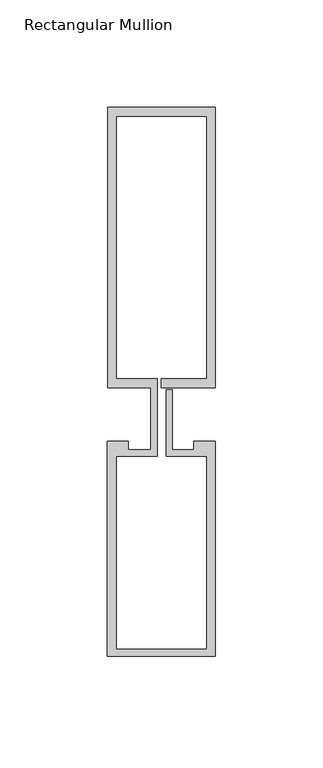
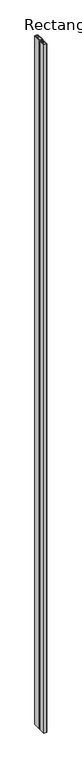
"""IFC4 building model written with IfcOpenShell, lengths in millimetres: member geometry, Rectangular Mullion : Reynaers_CW-50_Mullion-Transom_Horizontal_130.4mm_Facecap-02D."""

import ifcopenshell
import ifcopenshell.guid

model = None  # the IFC model being written
_history = None  # IfcOwnerHistory: only IFC2X3 demands one
_inside = {}  # id of a spatial element -> (the spatial element, [elements in it])
_under = {}  # id of a project, library or spatial element -> (it, [spatial elements below it])
_declared = {}  # id of a project -> (the project, [libraries it declares])
_typed = {}  # id of a type object -> (the type object, [elements of that type])
_made_of = {}  # id of a material, layer set ... -> (it, [elements and type objects made of it])


def new_model(schema):
    """Start an empty IFC model of exactly this schema.

    Asked for "IFC4X3", IfcOpenShell would pick the latest addendum, in which some entities
    have other attributes; the version numbers below select the first issue.
    IFC2X3 requires an IfcOwnerHistory on every rooted entity: one is made here for all.
    """
    global model, _history
    if schema == "IFC4X3":
        model = ifcopenshell.file(schema_version=(4, 3, 0, 0))
    else:
        model = ifcopenshell.file(schema=schema)
    _inside.clear()
    _under.clear()
    _declared.clear()
    _typed.clear()
    _made_of.clear()
    _history = None
    if model.schema == "IFC2X3":
        org = make("IfcOrganization", Name="unknown")
        user = make(
            "IfcPersonAndOrganization",
            ThePerson=make("IfcPerson", FamilyName="unknown"),
            TheOrganization=org,
        )
        app = make(
            "IfcApplication",
            ApplicationDeveloper=org,
            Version="unknown",
            ApplicationFullName="unknown",
            ApplicationIdentifier="unknown",
        )
        _history = make(
            "IfcOwnerHistory",
            OwningUser=user,
            OwningApplication=app,
            ChangeAction="ADDED",
            CreationDate=0,
        )
    return model


def make(cls, **values):
    """One entity of the class cls with the attributes given. An attribute that is None is left unset."""
    return model.create_entity(
        cls, **{name: value for name, value in values.items() if value is not None}
    )


def rooted(cls, **values):
    """An entity with a GlobalId (a new one), such as an element, a storey or a relation."""
    return make(cls, GlobalId=ifcopenshell.guid.new(), OwnerHistory=_history, **values)


def si_unit(unit_type, name, prefix=None):
    """IfcSIUnit, for example si_unit("LENGTHUNIT", "METRE", prefix="MILLI")."""
    return make("IfcSIUnit", UnitType=unit_type, Prefix=prefix, Name=name)


def assignment(units):
    """IfcUnitAssignment: the units of a project."""
    return None if units is None else make("IfcUnitAssignment", Units=units)


def point(xyz):
    """IfcCartesianPoint."""
    return None if xyz is None else make("IfcCartesianPoint", Coordinates=xyz)


def direction(xyz):
    """IfcDirection."""
    return None if xyz is None else make("IfcDirection", DirectionRatios=xyz)


def frame(location, z_axis=None, x_axis=None):
    """IfcAxis2Placement3D, a coordinate frame: its origin and axes. An axis left out is left unset."""
    return make(
        "IfcAxis2Placement3D",
        Location=point(location),
        Axis=direction(z_axis),
        RefDirection=direction(x_axis),
    )


def origin():
    """The frame at (0, 0, 0) with its axes left unset."""
    return frame((0.0, 0.0, 0.0))


def place(relative_to, where):
    """IfcLocalPlacement: puts the frame where relative to a parent placement (None: the world)."""
    return make(
        "IfcLocalPlacement", PlacementRelTo=relative_to, RelativePlacement=where
    )


def context(
    kind, dimensions, precision=None, world=None, true_north=None, identifier=None
):
    """IfcGeometricRepresentationContext, for example the 3D "Model" context."""
    return make(
        "IfcGeometricRepresentationContext",
        ContextIdentifier=identifier,
        ContextType=kind,
        CoordinateSpaceDimension=dimensions,
        Precision=precision,
        WorldCoordinateSystem=world,
        TrueNorth=true_north,
    )


def project(units=None, contexts=None):
    """IfcProject with its units and contexts."""
    return rooted(
        "IfcProject",
        Name="project",
        RepresentationContexts=contexts,
        UnitsInContext=assignment(units),
    )


def spatial(cls, under=None, at=None, **own):
    """A site, building, storey or space (cls), placed at a placement, below another one or the project."""
    s = rooted(cls, ObjectPlacement=at, **own)
    if under is not None:
        _under.setdefault(under.id(), (under, []))[1].append(s)
    return s


def polyline(points):
    """IfcPolyline through the points."""
    return make("IfcPolyline", Points=[point(p) for p in points])


def outline(outer, holes=None, kind="AREA"):
    """IfcArbitraryClosedProfileDef: a profile drawn as a closed curve; with holes, ...WithVoids."""
    if holes is None:
        return make("IfcArbitraryClosedProfileDef", ProfileType=kind, OuterCurve=outer)
    return make(
        "IfcArbitraryProfileDefWithVoids",
        ProfileType=kind,
        OuterCurve=outer,
        InnerCurves=holes,
    )


def extrude(swept, where, along, depth):
    """IfcExtrudedAreaSolid: the profile swept, set in the frame where, extruded along a direction by depth."""
    return make(
        "IfcExtrudedAreaSolid",
        SweptArea=swept,
        Position=where,
        ExtrudedDirection=direction(along),
        Depth=depth,
    )


def shape(context_of_items, identifier, shape_type, items):
    """IfcShapeRepresentation: the items that make up one representation, for example the "Body"."""
    return make(
        "IfcShapeRepresentation",
        ContextOfItems=context_of_items,
        RepresentationIdentifier=identifier,
        RepresentationType=shape_type,
        Items=items,
    )


def source(mapping_origin, context_of_items, identifier, shape_type, items):
    """IfcRepresentationMap: a shape defined once, which mapped items show again and again."""
    return make(
        "IfcRepresentationMap",
        MappingOrigin=mapping_origin,
        MappedRepresentation=shape(context_of_items, identifier, shape_type, items),
    )


def transform(
    local_origin,
    x_axis=None,
    y_axis=None,
    z_axis=None,
    scale=None,
    scale2=None,
    scale3=None,
    uniform=True,
):
    """IfcCartesianTransformationOperator3D, or its non-uniform kind. x_axis, y_axis, z_axis: its Axis1, 2, 3."""
    if uniform:
        return make(
            "IfcCartesianTransformationOperator3D",
            Axis1=direction(x_axis),
            Axis2=direction(y_axis),
            LocalOrigin=point(local_origin),
            Scale=scale,
            Axis3=direction(z_axis),
        )
    return make(
        "IfcCartesianTransformationOperator3DnonUniform",
        Axis1=direction(x_axis),
        Axis2=direction(y_axis),
        LocalOrigin=point(local_origin),
        Scale=scale,
        Axis3=direction(z_axis),
        Scale2=scale2,
        Scale3=scale3,
    )


def mapped(mapping_source, mapping_target):
    """IfcMappedItem: shows the shape of a source again, moved by a transform."""
    return make(
        "IfcMappedItem", MappingSource=mapping_source, MappingTarget=mapping_target
    )


def made_of(thing, what):
    """Note that an element or type object is made of a material, layer set ...; save() writes the relation."""
    if what is not None:
        _made_of.setdefault(what.id(), (what, []))[1].append(thing)
    return thing


def element(
    cls,
    number,
    at=None,
    inside=None,
    cuts=None,
    type_object=None,
    material=None,
    context=None,
    identifier="Body",
    shape_type=None,
    held_by="IfcProductDefinitionShape",
    body=None,
    shapes=None,
    **own,
):
    """One element of the class cls, such as IfcWall. Its Tag is "e" and its number.

    at: its placement. inside: the storey or other place that contains it. cuts: it is an
    opening in that element (IfcRelVoidsElement). A single representation is given by context,
    identifier, shape_type and body (its items); several are given by shapes. held_by: the class
    of the entity that holds the representations. save() writes the other relations.
    """
    e = rooted(cls, Tag="e%d" % number, ObjectPlacement=at, **own)
    if body is not None:
        shapes = [shape(context, identifier, shape_type, body)]
    if shapes is not None:
        e.Representation = make(held_by, Representations=shapes)
    if inside is not None:
        _inside.setdefault(inside.id(), (inside, []))[1].append(e)
    if cuts is not None:
        rooted(
            "IfcRelVoidsElement", RelatingBuildingElement=cuts, RelatedOpeningElement=e
        )
    if type_object is not None:
        _typed.setdefault(type_object.id(), (type_object, []))[1].append(e)
    return made_of(e, material)


def aggregate(whole, parts):
    """IfcRelAggregates: a whole, such as a stair, and the parts it consists of."""
    return rooted("IfcRelAggregates", RelatingObject=whole, RelatedObjects=parts)


def save(model, path):
    """Write the relations noted so far, then the file.

    IfcRelAggregates (storeys below a building ...), IfcRelContainedInSpatialStructure (elements
    in a storey), IfcRelDefinesByType, IfcRelAssociatesMaterial and IfcRelDeclares: one each for
    every whole, place, type object, material and project.
    """
    for whole, parts in _under.values():
        aggregate(whole, parts)
    for where, things in _inside.values():
        rooted(
            "IfcRelContainedInSpatialStructure",
            RelatedElements=things,
            RelatingStructure=where,
        )
    for kind, things in _typed.values():
        rooted("IfcRelDefinesByType", RelatedObjects=things, RelatingType=kind)
    for what, things in _made_of.values():
        rooted("IfcRelAssociatesMaterial", RelatedObjects=things, RelatingMaterial=what)
    for by, libraries in _declared.values():
        rooted("IfcRelDeclares", RelatingContext=by, RelatedDefinitions=libraries)
    model.write(path)


def rectangular_mullion_0ccb0c52(model_context):
    return source(origin(), model_context, "Body", "SweptSolid", [
        extrude(outline(polyline([(-24.8004059, 142.9), (25.1995941, 142.9), (25.1995941, 12.5), (0.0, 12.5), (0.0, 16.5), (21.1995941, 16.5), (21.1995941, 138.9), (-20.8004059, 138.9), (-20.8004059, 16.5), (-1.9004059, 16.5), (-1.9004059, -19.5), (-20.994845, -19.5), (-20.994845, -109.4191338), (21.1995941, -109.4191338), (21.1995941, -19.5), (2.2995941, -19.5), (2.2995941, 11.5), (5.2995941, 11.5), (5.2995941, -16.5), (15.2996495, -16.5), (15.2996495, -12.5), (25.1995941, -12.5), (25.1995941, -112.5), (-24.994845, -112.5), (-24.994845, -12.5), (-15.2996495, -12.5), (-15.2996495, -16.5), (-4.9004059, -16.5), (-4.9004059, 12.5), (-24.8004059, 12.5), (-24.8004059, 142.9)])), frame((0.0, 0.0, -12000.0), z_axis=(0.0, 0.0, 1.0), x_axis=(1.0, 0.0, 0.0)), (0.0, 0.0, 1.0), 12000.0),
    ])


if __name__ == "__main__":
    model = new_model("IFC4")
    model_context = context("Model", 3, world=origin())
    ifc_project = project(units=[si_unit("LENGTHUNIT", "METRE", prefix="MILLI")], contexts=[model_context])
    site = spatial("IfcSite", under=ifc_project)
    building = spatial("IfcBuilding", under=site)
    placement = place(None, origin())
    rectangular_mullion_shape = rectangular_mullion_0ccb0c52(model_context)
    element("IfcMember", 1, ObjectType="Rectangular Mullion : Reynaers_CW-50_Mullion-Transom_Horizontal_130.4mm_Facecap-02D", at=placement, inside=building, context=model_context, shape_type="MappedRepresentation", body=[
        mapped(rectangular_mullion_shape, transform((0.0, 0.0, 0.0), x_axis=(1.0, 0.0, 0.0), y_axis=(0.0, 1.0, 0.0), z_axis=(0.0, 0.0, 1.0))),
    ])
    save(model, "model.ifc")
